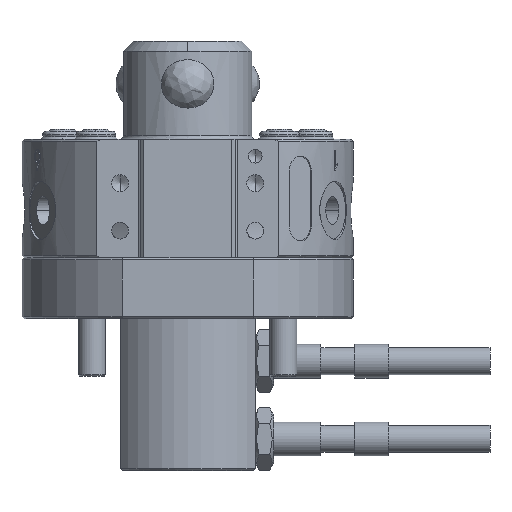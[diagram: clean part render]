
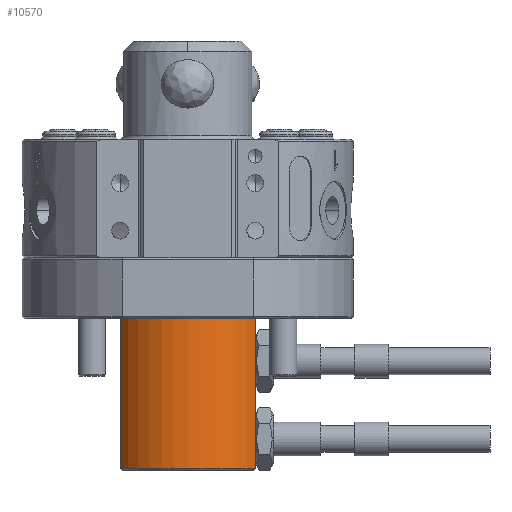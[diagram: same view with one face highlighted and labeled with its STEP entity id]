
A CAD part, front view. The second image highlights one B-rep face of the part: STEP entity #10570.
In plain terms, the highlighted cylindrical face has radius 12 mm (diameter 24 mm), a partial arc.
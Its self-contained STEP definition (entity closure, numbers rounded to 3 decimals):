
#398 = CARTESIAN_POINT ( 'NONE',  ( -10., -6.633, -41. ) ) ;
#612 = CARTESIAN_POINT ( 'NONE',  ( -10., -6.633, -63.5 ) ) ;
#1241 = VECTOR ( 'NONE', #19343, 1000. ) ;
#1476 = ORIENTED_EDGE ( 'NONE', *, *, #4954, .T. ) ;
#1920 = AXIS2_PLACEMENT_3D ( 'NONE', #16514, #5786, #18283 ) ;
#1956 = CARTESIAN_POINT ( 'NONE',  ( 0., 0., -63.5 ) ) ;
#2170 = ORIENTED_EDGE ( 'NONE', *, *, #20475, .T. ) ;
#3315 = EDGE_CURVE ( 'NONE', #21853, #13776, #15567, .T. ) ;
#3771 = DIRECTION ( 'NONE',  ( 1., 0., 0. ) ) ;
#3868 = DIRECTION ( 'NONE',  ( 0., 0., -1. ) ) ;
#4496 = EDGE_LOOP ( 'NONE', ( #21632, #2170, #1476, #18852 ) ) ;
#4954 = EDGE_CURVE ( 'NONE', #22315, #5232, #14710, .T. ) ;
#5145 = VECTOR ( 'NONE', #13249, 1000. ) ;
#5232 = VERTEX_POINT ( 'NONE', #16057 ) ;
#5786 = DIRECTION ( 'NONE',  ( 0., 0., 1. ) ) ;
#6098 = EDGE_CURVE ( 'NONE', #5232, #21853, #6210, .T. ) ;
#6115 = AXIS2_PLACEMENT_3D ( 'NONE', #1956, #19770, #3771 ) ;
#6210 = CIRCLE ( 'NONE', #1920, 12. ) ;
#8144 = CARTESIAN_POINT ( 'NONE',  ( 10., -6.633, -63.5 ) ) ;
#8753 = AXIS2_PLACEMENT_3D ( 'NONE', #14651, #3868, #16395 ) ;
#10570 = ADVANCED_FACE ( 'NONE', ( #18948 ), #23040, .T. ) ;
#12336 = CARTESIAN_POINT ( 'NONE',  ( 10., -6.633, -41. ) ) ;
#13249 = DIRECTION ( 'NONE',  ( 0., 0., -1. ) ) ;
#13776 = VERTEX_POINT ( 'NONE', #12336 ) ;
#14651 = CARTESIAN_POINT ( 'NONE',  ( 0., 0., -41. ) ) ;
#14710 = LINE ( 'NONE', #612, #5145 ) ;
#15567 = LINE ( 'NONE', #8144, #1241 ) ;
#16057 = CARTESIAN_POINT ( 'NONE',  ( -10., -6.633, -63.2 ) ) ;
#16395 = DIRECTION ( 'NONE',  ( 1., 0., 0. ) ) ;
#16514 = CARTESIAN_POINT ( 'NONE',  ( 0., 0., -63.2 ) ) ;
#18057 = CIRCLE ( 'NONE', #8753, 12. ) ;
#18283 = DIRECTION ( 'NONE',  ( 1., 0., 0. ) ) ;
#18852 = ORIENTED_EDGE ( 'NONE', *, *, #6098, .T. ) ;
#18948 = FACE_OUTER_BOUND ( 'NONE', #4496, .T. ) ;
#19343 = DIRECTION ( 'NONE',  ( 0., 0., 1. ) ) ;
#19770 = DIRECTION ( 'NONE',  ( 0., 0., 1. ) ) ;
#20475 = EDGE_CURVE ( 'NONE', #13776, #22315, #18057, .T. ) ;
#21632 = ORIENTED_EDGE ( 'NONE', *, *, #3315, .T. ) ;
#21853 = VERTEX_POINT ( 'NONE', #22073 ) ;
#22073 = CARTESIAN_POINT ( 'NONE',  ( 10., -6.633, -63.2 ) ) ;
#22315 = VERTEX_POINT ( 'NONE', #398 ) ;
#23040 = CYLINDRICAL_SURFACE ( 'NONE', #6115, 12. ) ;
